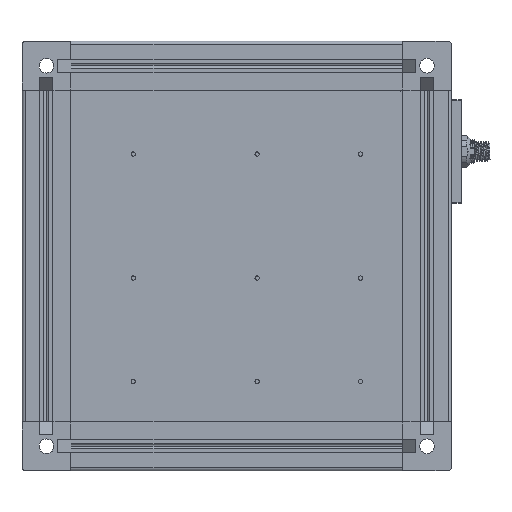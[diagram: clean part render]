
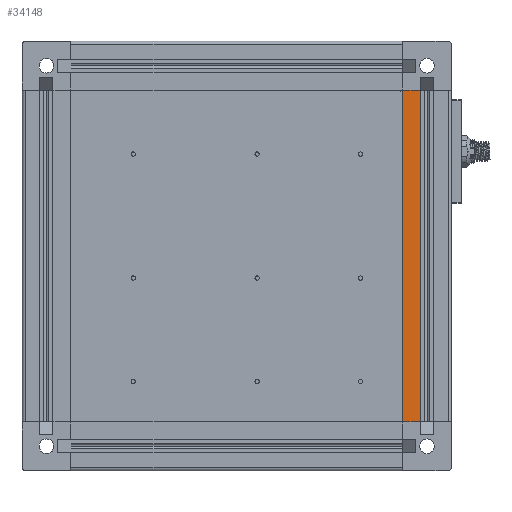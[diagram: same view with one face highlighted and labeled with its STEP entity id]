
A CAD part, front view. The second image highlights one B-rep face of the part: STEP entity #34148.
In plain terms, the highlighted planar face has unit normal (0, -1, 0) as drawn and (0, 0, 1) by its records, which use the part's own axes.
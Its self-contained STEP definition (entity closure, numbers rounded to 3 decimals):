
#2657 = ORIENTED_EDGE ( 'NONE', *, *, #10784, .F. ) ;
#5047 = AXIS2_PLACEMENT_3D ( 'NONE', #12354, #47034, #66037 ) ;
#9476 = VECTOR ( 'NONE', #68794, 1000. ) ;
#10784 = EDGE_CURVE ( 'NONE', #18348, #25091, #36526, .T. ) ;
#12354 = CARTESIAN_POINT ( 'NONE',  ( -204., -4., 15. ) ) ;
#13019 = ORIENTED_EDGE ( 'NONE', *, *, #49653, .F. ) ;
#15493 = CARTESIAN_POINT ( 'NONE',  ( -204., -4., 15. ) ) ;
#18348 = VERTEX_POINT ( 'NONE', #38156 ) ;
#18689 = DIRECTION ( 'NONE',  ( 0., -1., 0. ) ) ;
#19140 = CARTESIAN_POINT ( 'NONE',  ( -204., -4., 15. ) ) ;
#20414 = CARTESIAN_POINT ( 'NONE',  ( 0., -4., 15. ) ) ;
#25091 = VERTEX_POINT ( 'NONE', #54958 ) ;
#34148 = ADVANCED_FACE ( 'NONE', ( #45716 ), #72647, .T. ) ;
#34189 = VERTEX_POINT ( 'NONE', #54959 ) ;
#36526 = LINE ( 'NONE', #15493, #64466 ) ;
#38017 = LINE ( 'NONE', #19140, #77288 ) ;
#38156 = CARTESIAN_POINT ( 'NONE',  ( -204., -4., 15. ) ) ;
#39048 = ORIENTED_EDGE ( 'NONE', *, *, #73343, .T. ) ;
#43625 = LINE ( 'NONE', #76699, #9476 ) ;
#44789 = VERTEX_POINT ( 'NONE', #63924 ) ;
#45716 = FACE_OUTER_BOUND ( 'NONE', #46542, .T. ) ;
#46542 = EDGE_LOOP ( 'NONE', ( #13019, #2657, #75674, #39048 ) ) ;
#46723 = DIRECTION ( 'NONE',  ( 0., -1., 0. ) ) ;
#47034 = DIRECTION ( 'NONE',  ( 0., 0., 1. ) ) ;
#49653 = EDGE_CURVE ( 'NONE', #25091, #44789, #53789, .T. ) ;
#53789 = LINE ( 'NONE', #20414, #78340 ) ;
#54958 = CARTESIAN_POINT ( 'NONE',  ( 0., -4., 15. ) ) ;
#54959 = CARTESIAN_POINT ( 'NONE',  ( -204., -15., 15. ) ) ;
#61633 = DIRECTION ( 'NONE',  ( 1., 0., 0. ) ) ;
#62440 = EDGE_CURVE ( 'NONE', #18348, #34189, #38017, .T. ) ;
#63924 = CARTESIAN_POINT ( 'NONE',  ( 0., -15., 15. ) ) ;
#64466 = VECTOR ( 'NONE', #61633, 1000. ) ;
#66037 = DIRECTION ( 'NONE',  ( 0., -1., 0. ) ) ;
#68794 = DIRECTION ( 'NONE',  ( 1., 0., 0. ) ) ;
#72647 = PLANE ( 'NONE',  #5047 ) ;
#73343 = EDGE_CURVE ( 'NONE', #34189, #44789, #43625, .T. ) ;
#75674 = ORIENTED_EDGE ( 'NONE', *, *, #62440, .T. ) ;
#76699 = CARTESIAN_POINT ( 'NONE',  ( -204., -15., 15. ) ) ;
#77288 = VECTOR ( 'NONE', #18689, 1000. ) ;
#78340 = VECTOR ( 'NONE', #46723, 1000. ) ;
